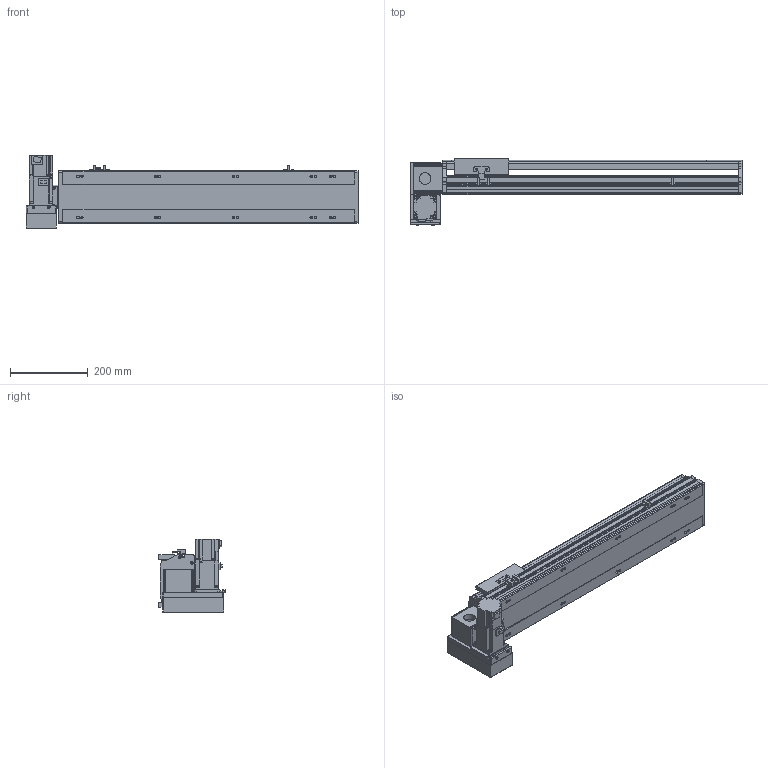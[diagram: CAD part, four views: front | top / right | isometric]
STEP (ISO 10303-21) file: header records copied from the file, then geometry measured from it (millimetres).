
FILE_DESCRIPTION( ( 'STEP AP214' ), '1' );
FILE_NAME( 'x:/temp/worker_6/temp/exporttempdir_5396_89_OHdMK/format_0/PBS140S-P40-S500-LD-T40-C1-N(0).stp', '2022-06-09T00:24:02', ( 'License CC BY-ND 4.0' ), ( 'CADENAS' ), ' ', 'PARTsolutions', ' ' );
FILE_SCHEMA( ( 'AUTOMOTIVE_DESIGN { 1 0 10303 214 1 1 1 1 }' ) );
Length unit declared in the file: millimetre
Products named in the file (7): PBS140S-P40-S500-LD-T40-C1-N(0); _PBS140S-S500()_body; _PBS140ST-LD_motors; _T40-p1; _PBS140S_sliser; _PBS140S_plant; _PBS140S_sensor
Assembly tree (8 placements, depth 2):
  PBS140S-P40-S500-LD-T40-C1-N(0)
    _PBS140S-S500()_body
    _PBS140ST-LD_motors
    _T40-p1
    _PBS140S_sliser
    _PBS140S_plant
    _PBS140S_sensor  x3
Bounding box: 854 x 172.5 x 189.7 mm (x, y, z)
Volume: 4761067.7 mm3; surface area: 847142.9 mm2
Topology: 8 solids, 8 shells, 1051 faces, 2791 edges, 1827 vertices
Faces by surface type: plane 684, cylinder 321, cone 36, sphere 8, torus 2
Full cylindrical faces by diameter (mm): 3.242 x4, 4 x2, 4.134 x4, 4.4 x8, 4.5 x2, 4.8 x4, 4.917 x18, 5.5 x7, 6 x2, 7 x12, 7.5 x8, 8 x12, 8.5 x4, 10.5 x10, 14 x1, 30 x2, 50 x2
Entity records: 38410 total; most frequent: CARTESIAN_POINT 5902, DIRECTION 5138, ORIENTED_EDGE 4882, EDGE_CURVE 2441, AXIS2_PLACEMENT_3D 1769, VERTEX_POINT 1681, LINE 1600, VECTOR 1600
